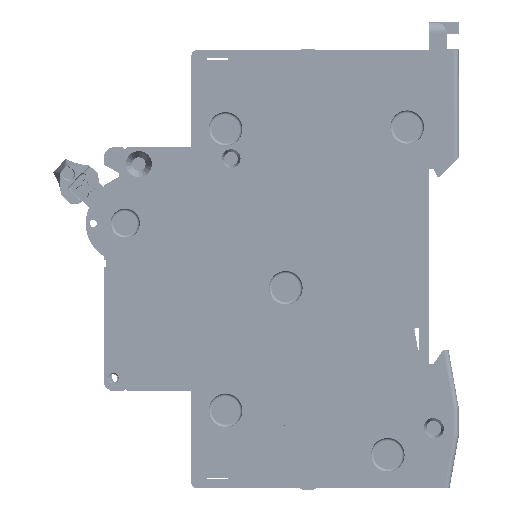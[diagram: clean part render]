
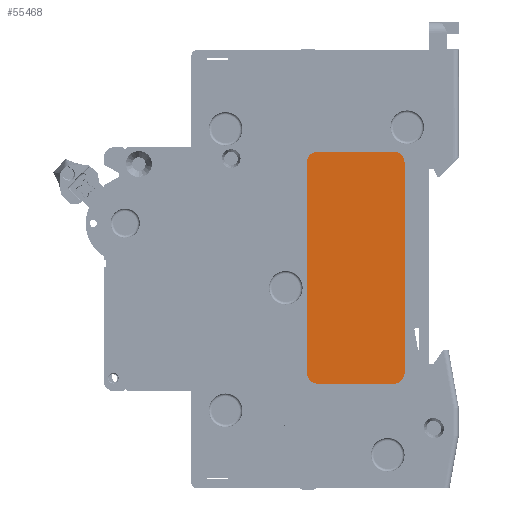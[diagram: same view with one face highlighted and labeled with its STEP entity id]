
A CAD part, front view. The second image highlights one B-rep face of the part: STEP entity #55468.
In plain terms, the highlighted planar face has unit normal (0, -1, 0).
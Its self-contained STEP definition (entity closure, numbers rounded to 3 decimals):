
#20363=CARTESIAN_POINT('',(25.5,0.08,-11.5));
#20364=DIRECTION('',(0.,-1.,0.));
#20365=DIRECTION('',(-1.,0.,0.));
#20366=AXIS2_PLACEMENT_3D('',#20363,#20364,#20365);
#20368=DIRECTION('',(0.,0.,-1.));
#20369=VECTOR('',#20368,38.8);
#20370=CARTESIAN_POINT('',(23.5,0.08,27.3));
#20371=LINE('',#20370,#20369);
#20372=CARTESIAN_POINT('',(25.5,0.08,27.3));
#20373=DIRECTION('',(0.,-1.,0.));
#20374=DIRECTION('',(0.,0.,1.));
#20375=AXIS2_PLACEMENT_3D('',#20372,#20373,#20374);
#20377=DIRECTION('',(-1.,0.,0.));
#20378=VECTOR('',#20377,14.);
#20379=CARTESIAN_POINT('',(39.5,0.08,29.3));
#20380=LINE('',#20379,#20378);
#20381=CARTESIAN_POINT('',(39.5,0.08,27.3));
#20382=DIRECTION('',(0.,-1.,0.));
#20383=DIRECTION('',(1.,0.,0.));
#20384=AXIS2_PLACEMENT_3D('',#20381,#20382,#20383);
#20386=DIRECTION('',(0.,0.,1.));
#20387=VECTOR('',#20386,38.8);
#20388=CARTESIAN_POINT('',(41.5,0.08,-11.5));
#20389=LINE('',#20388,#20387);
#20390=CARTESIAN_POINT('',(39.5,0.08,-11.5));
#20391=DIRECTION('',(0.,-1.,0.));
#20392=DIRECTION('',(0.,0.,-1.));
#20393=AXIS2_PLACEMENT_3D('',#20390,#20391,#20392);
#20395=DIRECTION('',(1.,0.,0.));
#20396=VECTOR('',#20395,14.);
#20397=CARTESIAN_POINT('',(25.5,0.08,-13.5));
#20398=LINE('',#20397,#20396);
#25610=CARTESIAN_POINT('',(23.5,0.08,-11.5));
#25611=CARTESIAN_POINT('',(25.5,0.08,-13.5));
#25612=VERTEX_POINT('',#25610);
#25613=VERTEX_POINT('',#25611);
#25614=CARTESIAN_POINT('',(39.5,0.08,-13.5));
#25615=VERTEX_POINT('',#25614);
#25616=CARTESIAN_POINT('',(41.5,0.08,-11.5));
#25617=VERTEX_POINT('',#25616);
#25618=CARTESIAN_POINT('',(41.5,0.08,27.3));
#25619=VERTEX_POINT('',#25618);
#25620=CARTESIAN_POINT('',(39.5,0.08,29.3));
#25621=VERTEX_POINT('',#25620);
#25622=CARTESIAN_POINT('',(25.5,0.08,29.3));
#25623=VERTEX_POINT('',#25622);
#25624=CARTESIAN_POINT('',(23.5,0.08,27.3));
#25625=VERTEX_POINT('',#25624);
#55453=CARTESIAN_POINT('',(0.,0.08,0.));
#55454=DIRECTION('',(0.,-1.,0.));
#55455=DIRECTION('',(0.,0.,1.));
#55456=AXIS2_PLACEMENT_3D('',#55453,#55454,#55455);
#55457=PLANE('',#55456);
#55458=ORIENTED_EDGE('',*,*,#55349,.F.);
#55459=ORIENTED_EDGE('',*,*,#55364,.F.);
#55460=ORIENTED_EDGE('',*,*,#55378,.F.);
#55461=ORIENTED_EDGE('',*,*,#55392,.F.);
#55462=ORIENTED_EDGE('',*,*,#55406,.F.);
#55463=ORIENTED_EDGE('',*,*,#55420,.F.);
#55464=ORIENTED_EDGE('',*,*,#55434,.F.);
#55465=ORIENTED_EDGE('',*,*,#55447,.F.);
#55466=EDGE_LOOP('',(#55458,#55459,#55460,#55461,#55462,#55463,#55464,#55465));
#55467=FACE_OUTER_BOUND('',#55466,.F.);
#55468=ADVANCED_FACE('',(#55467),#55457,.T.);
#20367=CIRCLE('',#20366,2.);
#20376=CIRCLE('',#20375,2.);
#20385=CIRCLE('',#20384,2.);
#20394=CIRCLE('',#20393,2.);
#55349=EDGE_CURVE('',#25612,#25613,#20367,.T.);
#55364=EDGE_CURVE('',#25625,#25612,#20371,.T.);
#55378=EDGE_CURVE('',#25623,#25625,#20376,.T.);
#55392=EDGE_CURVE('',#25621,#25623,#20380,.T.);
#55406=EDGE_CURVE('',#25619,#25621,#20385,.T.);
#55420=EDGE_CURVE('',#25617,#25619,#20389,.T.);
#55434=EDGE_CURVE('',#25615,#25617,#20394,.T.);
#55447=EDGE_CURVE('',#25613,#25615,#20398,.T.);
